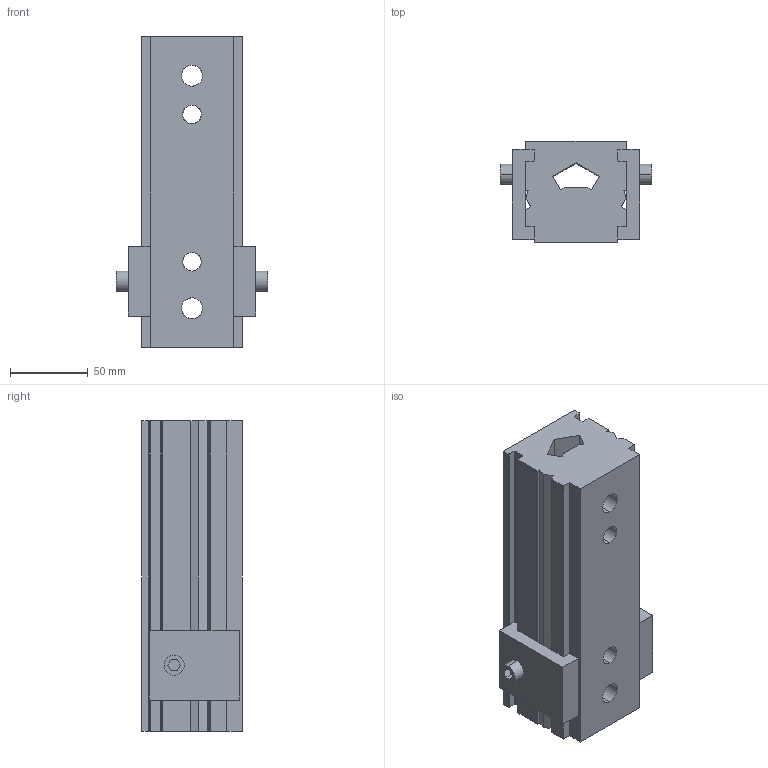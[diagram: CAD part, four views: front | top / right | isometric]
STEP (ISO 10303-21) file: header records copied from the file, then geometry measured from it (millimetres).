
FILE_DESCRIPTION(('CATIA V5 STEP Exchange'),'2;1');
FILE_NAME('C:\Users\Utente\Desktop\3D files A945-03\A945-03-0620-01-S-BC.stp','2020-04-17T10:01:57+00:00',('none'),('none'),'CATIA Version 5 Release 20 GA (IN-10)','CATIA V5 STEP AP203','none');
FILE_SCHEMA(('CONFIG_CONTROL_DESIGN'));
Length unit declared in the file: millimetre
Products named in the file (1): A945-03-0620-01-S-BC
Bounding box: 98 x 65 x 200 mm (x, y, z)
Volume: 761517.9 mm3; surface area: 93867.2 mm2
Topology: 1 solids, 3 shells, 121 faces, 381 edges, 258 vertices
Faces by surface type: plane 97, cylinder 24
Entity records: 4577 total; most frequent: CARTESIAN_POINT 1145, ORIENTED_EDGE 762, DIRECTION 599, EDGE_CURVE 381, VECTOR 293, LINE 293, VERTEX_POINT 258, AXIS2_PLACEMENT_3D 186
